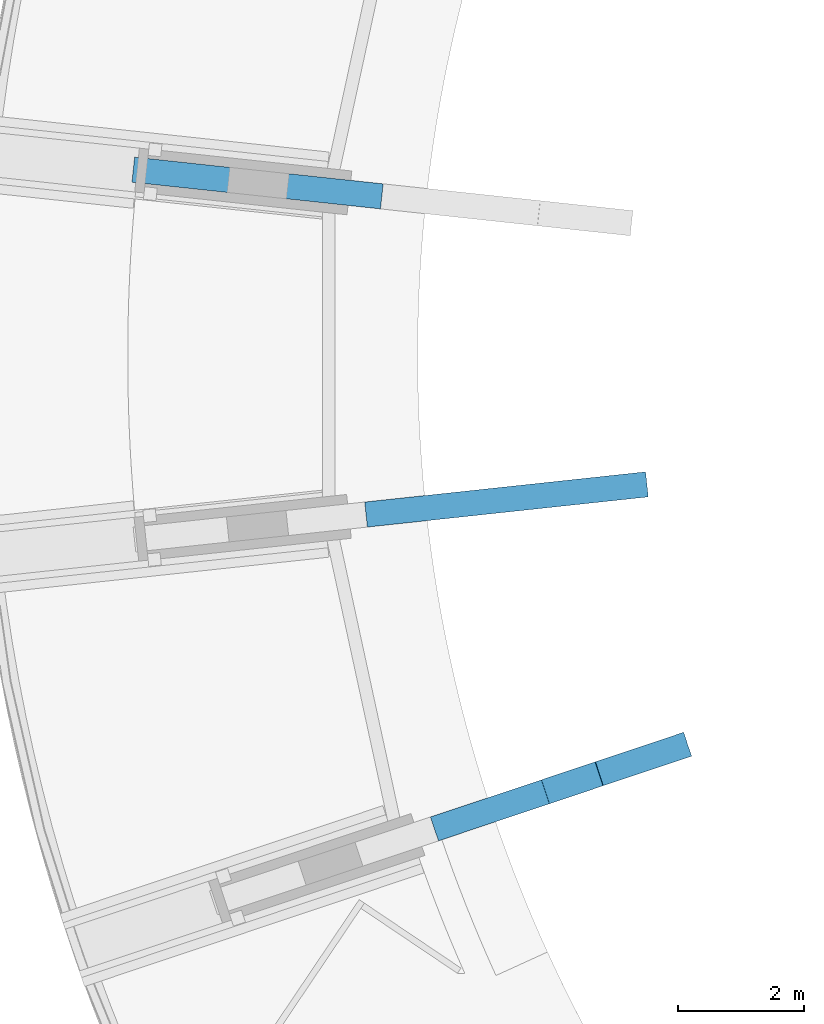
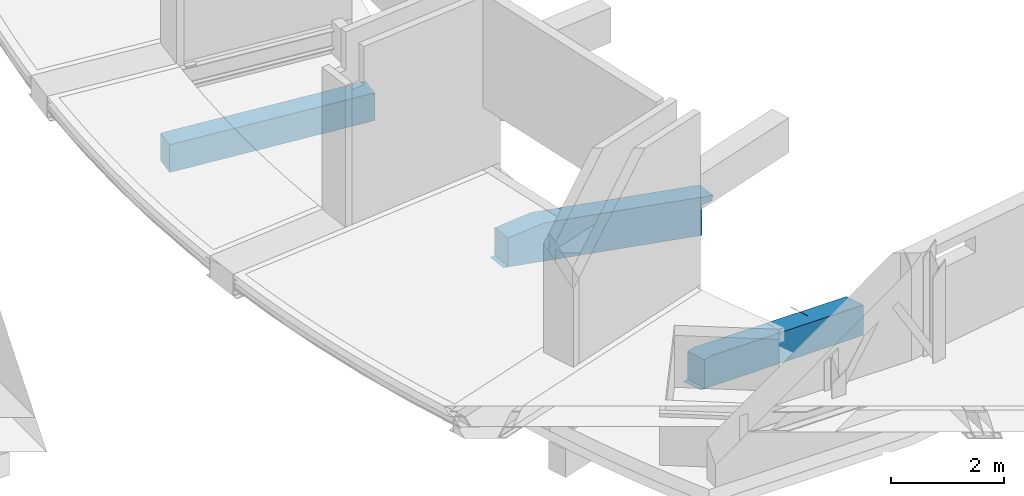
# One storey, part 30 of 37: 3 beams.
"""IFC2X3 building model written with IfcOpenShell, lengths in millimetres."""

from ifc_helpers import new_model, entity, si_unit, converted_unit, derived_unit, direction, frame, origin, place, context, subcontext, project, spatial, faceted_brep, source, transform, mapped, material, type_object, type_shapes, element, save


model = new_model("IFC2X3")

# Units and contexts
model_context = context("Model", 3, precision=0.01, world=origin(), true_north=direction((6.12303176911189e-17, 1.0)))
body_context = subcontext(model_context, "Body", "Model", "MODEL_VIEW")
ifc_project = project(units=[si_unit("LENGTHUNIT", "METRE", prefix="MILLI"), si_unit("AREAUNIT", "SQUARE_METRE", prefix="MILLI"), si_unit("VOLUMEUNIT", "CUBIC_METRE"), converted_unit("PLANEANGLEUNIT", "DEGREE", entity("IfcRatioMeasure", 0.0174532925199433), si_unit("PLANEANGLEUNIT", "RADIAN"), dimensions=[0, 0, 0, 0, 0, 0, 0]), si_unit("MASSUNIT", "GRAM", prefix="KILO"), derived_unit("MASSDENSITYUNIT", [(si_unit("MASSUNIT", "GRAM", prefix="KILO"), 1), (si_unit("LENGTHUNIT", "METRE"), -3)]), derived_unit("MOMENTOFINERTIAUNIT", [(si_unit("LENGTHUNIT", "METRE"), 4)]), si_unit("TIMEUNIT", "SECOND"), si_unit("FREQUENCYUNIT", "HERTZ"), si_unit("THERMODYNAMICTEMPERATUREUNIT", "DEGREE_CELSIUS"), derived_unit("THERMALTRANSMITTANCEUNIT", [(si_unit("MASSUNIT", "GRAM", prefix="KILO"), 1), (si_unit("THERMODYNAMICTEMPERATUREUNIT", "KELVIN"), -1), (si_unit("TIMEUNIT", "SECOND"), -3)]), derived_unit("VOLUMETRICFLOWRATEUNIT", [(si_unit("LENGTHUNIT", "METRE"), 3), (si_unit("TIMEUNIT", "SECOND"), -1)]), si_unit("ELECTRICCURRENTUNIT", "AMPERE"), si_unit("ELECTRICVOLTAGEUNIT", "VOLT"), si_unit("POWERUNIT", "WATT"), si_unit("FORCEUNIT", "NEWTON", prefix="KILO"), si_unit("ILLUMINANCEUNIT", "LUX"), si_unit("LUMINOUSFLUXUNIT", "LUMEN"), si_unit("LUMINOUSINTENSITYUNIT", "CANDELA"), derived_unit("USERDEFINED", [(si_unit("MASSUNIT", "GRAM", prefix="KILO"), -1), (si_unit("LENGTHUNIT", "METRE"), -2), (si_unit("TIMEUNIT", "SECOND"), 3), (si_unit("LUMINOUSFLUXUNIT", "LUMEN"), 1)]), derived_unit("LINEARVELOCITYUNIT", [(si_unit("LENGTHUNIT", "METRE"), 1), (si_unit("TIMEUNIT", "SECOND"), -1)]), si_unit("PRESSUREUNIT", "PASCAL"), derived_unit("USERDEFINED", [(si_unit("LENGTHUNIT", "METRE"), -2), (si_unit("MASSUNIT", "GRAM", prefix="KILO"), 1), (si_unit("TIMEUNIT", "SECOND"), -2)]), derived_unit("LINEARFORCEUNIT", [(si_unit("MASSUNIT", "GRAM", prefix="KILO"), 1), (si_unit("LENGTHUNIT", "METRE"), 1), (si_unit("TIMEUNIT", "SECOND"), -2), (si_unit("LENGTHUNIT", "METRE"), -1)]), derived_unit("PLANARFORCEUNIT", [(si_unit("MASSUNIT", "GRAM", prefix="KILO"), 1), (si_unit("LENGTHUNIT", "METRE"), 1), (si_unit("TIMEUNIT", "SECOND"), -2), (si_unit("LENGTHUNIT", "METRE"), -2)])], contexts=[model_context])

# Site, building, storey
site_placement = place(None, origin())
site = spatial("IfcSite", under=ifc_project, at=site_placement, Name="Theater aan de Parade", CompositionType="ELEMENT")
building_placement = place(site_placement, origin())
building = spatial("IfcBuilding", under=site, at=building_placement, Name="Theater aan de Parade", CompositionType="ELEMENT")
storey_placement = place(building_placement, frame((0.0, 0.0, 5020.0)))
storey = spatial("IfcBuildingStorey", under=building, at=storey_placement, Name="01 eerste verdieping", CompositionType="ELEMENT", Elevation=5020.0)

# Beams
ifc_material = material(Name="00_PBT_MAT_beton t.p.g.")
beam_type_1 = type_object("IfcBeamType", Name="28_PBT_SF_betonbalk:400x800_bestaand", PredefinedType="NOTDEFINED")
beam_1_placement = place(storey_placement, frame((44891.9671446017, 34768.7907303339, -2510.0), z_axis=(0.0, 0.0, 1.0), x_axis=(0.994276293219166, -0.106839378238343, 0.0)))
element("IfcBeam", 1, at=beam_1_placement, inside=storey, type_object=beam_type_1, material=ifc_material, Name="28_PBT_SF_betonbalk:400x800_bestaand", ObjectType="28_PBT_SF_betonbalk:400x800_bestaand", context=body_context, shape_type="Brep", body=[
    faceted_brep([(3923.62694346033, 623.215513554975, 580.190744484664), (3923.62694346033, 556.548837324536, 580.211438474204), (3923.62694346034, 489.882159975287, 580.280398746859), (3923.62694346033, 423.215496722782, 580.397623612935), (3923.62694346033, 423.215496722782, 0.0), (3923.62694346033, 823.215496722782, 0.0), (3923.62694346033, 823.215496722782, 580.418259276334), (3923.62694346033, 756.548801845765, 580.294156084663), (3923.62694346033, 689.882173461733, 580.218317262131), (-45.4763739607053, 823.215496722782, 0.0), (-45.4763739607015, 423.215496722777, 0.0), (-45.4763739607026, 423.215496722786, 600.0), (-45.4763739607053, 823.215496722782, 600.0), (3885.2793046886, 423.215496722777, 590.198811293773), (3846.93166618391, 423.215496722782, 600.0), (1554.52362603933, 423.215496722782, 600.0), (1554.52362603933, 423.215496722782, 0.0), (3553.69964843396, 423.215496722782, 0.0), (1554.52362603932, 823.215496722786, 0.0), (3553.69964843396, 823.215496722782, 0.0), (1554.52362603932, 823.215496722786, 600.0), (3847.01214228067, 823.215496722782, 600.0), (3885.31954272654, 823.215496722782, 590.209129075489), (3846.12489796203, 623.215667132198, 600.0)], [[[0, 1, 2, 3, 4, 5, 6, 7, 8]], [[9, 10, 11, 12]], [[13, 14, 15, 11, 10, 16, 17, 4, 3]], [[4, 17, 16, 10, 9, 18, 19, 5]], [[6, 5, 19, 18, 9, 12, 20, 21, 22]], [[15, 14, 23, 21, 20, 12, 11]], [[23, 14, 13]], [[0, 13, 1]], [[3, 2, 13]], [[1, 13, 2]], [[0, 23, 13]], [[7, 6, 22]], [[23, 0, 22]], [[0, 8, 22]], [[7, 22, 8]], [[21, 23, 22]]]),
])
beam_2_placement = place(storey_placement, frame((48489.2409887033, 29707.5559748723, -3604.20977498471), z_axis=(0.24282752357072, 0.0260928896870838, 0.969718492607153), x_axis=(0.964168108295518, 0.103604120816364, -0.244225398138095)))
element("IfcBeam", 2, at=beam_2_placement, inside=storey, type_object=beam_type_1, material=ifc_material, Name="28_PBT_SF_betonbalk:400x800_bestaand", ObjectType="28_PBT_SF_betonbalk:400x800_bestaand", context=body_context, shape_type="Brep", body=[
    faceted_brep([(4300.36965482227, -4.56586109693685, 1758.7261448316), (4300.36965482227, 395.434138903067, 1758.7261448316), (4300.36965482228, 395.434138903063, 1871.45287024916), (4300.36965482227, -4.56586109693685, 1871.45287024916), (493.694276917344, -4.56586109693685, 1871.45287024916), (493.694276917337, 395.434138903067, 1871.45287024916), (4088.1369321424, 395.434138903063, 1705.27494060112), (4247.76619430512, 395.434138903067, 1071.45287024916), (-226.029369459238, 395.434138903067, 1071.45287024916), (-129.841051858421, 395.434138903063, 1095.67807616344), (-276.376290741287, 395.434138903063, 1677.50917172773), (4246.6230954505, 195.434575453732, 1071.45287024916), (4247.59019547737, -4.56586109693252, 1071.45287024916), (-226.029369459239, -4.56586109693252, 1071.45287024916), (4087.97143094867, -4.56586109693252, 1705.23325881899), (-276.376290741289, -4.56586109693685, 1677.50917172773), (-129.841051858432, -4.56586109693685, 1095.67807616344), (4087.0620105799, 195.424820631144, 1705.00421961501)], [[[0, 1, 2, 3]], [[4, 3, 2, 5]], [[2, 1, 6, 7, 8, 9, 10, 5]], [[8, 7, 11, 12, 13]], [[12, 14, 0, 3, 4, 15, 16, 13]], [[15, 4, 5, 10]], [[17, 6, 1, 0, 14]], [[11, 7, 6]], [[17, 11, 6]], [[17, 14, 11]], [[12, 11, 14]], [[10, 9, 16, 15]], [[16, 9, 8, 13]]]),
])
beam_type_2 = type_object("IfcBeamType", Name="28_PBT_SF_betonbalk:400x800_bestaand", PredefinedType="BEAM", material=ifc_material)
shared_shape = source(origin(), body_context, "Body", "Brep", [
    faceted_brep([(2708.65432675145, 1285.63569519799, 1199.84412301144), (2714.81970162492, 1266.84277948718, 1199.87342108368), (2724.24063597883, 1238.12646801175, 1199.9181896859), (2732.03379059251, 1214.37185441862, 1199.95522302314), (2739.8269452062, 1190.6172408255, 1199.99225636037), (2747.62009981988, 1166.86262723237, 1200.0292896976), (2755.41325443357, 1143.10801363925, 1200.06632303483), (2763.20640904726, 1119.35340004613, 1200.10335637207), (2770.99956366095, 1095.59878645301, 1200.1403897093), (2779.01827767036, 1071.91936180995, 1200.1175424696), (2787.03699167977, 1048.23993716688, 1200.0946952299), (2795.05570568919, 1024.56051252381, 1200.0718479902), (2803.07441969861, 1000.88108788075, 1200.0490007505), (2811.09313370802, 977.20166323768, 1200.0261535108), (2819.11184771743, 953.522238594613, 1200.00330627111), (2827.13056172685, 929.842813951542, 1199.98045903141), (2835.1492757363, 906.163389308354, 1199.9576117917), (2840.00204382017, 907.787108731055, 1198.6688333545), (2818.62458867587, 970.935882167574, 1198.72808734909), (2797.40570335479, 1034.13466059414, 1198.74547290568), (2776.34138902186, 1097.38522013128, 1198.72180315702), (2755.42853986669, 1160.68675577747, 1198.65788421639), (2734.66407897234, 1224.0384317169, 1198.55451775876), (2714.04496052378, 1287.43938262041, 1198.41250038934), (2837.57204831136, 906.974040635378, 1196.44670963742), (2835.14927573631, 906.163389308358, 1194.2158482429), (2711.3465311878, 1286.53649749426, 1196.31861694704), (2708.65432675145, 1285.63569519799, 1194.2158482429), (2781.59107401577, 1063.99238318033, 1194.2158482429), (2792.18258591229, 1032.38597528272, 1194.2158482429), (2770.99956211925, 1095.59879107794, 1194.2158482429), (2813.56589541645, 969.240629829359, 1194.2158482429), (2824.35758557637, 937.702009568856, 1194.2158482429), (2802.87424066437, 1000.81330255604, 1194.2158482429), (2760.5082995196, 1127.23861651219, 1194.2158482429), (2718.94477396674, 1253.92999357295, 1194.2158482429), (2729.23522118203, 1222.22429194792, 1194.2158482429), (2739.62612905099, 1190.55136694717, 1194.2158482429), (2750.01703691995, 1158.87844194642, 1194.2158482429)], [[[0, 1, 2, 3, 4, 5, 6, 7, 8, 9, 10, 11, 12, 13, 14, 15, 16, 17, 18, 19, 20, 21, 22, 23]], [[24, 17, 16, 25]], [[0, 23, 26, 27]], [[10, 28, 29]], [[9, 8, 30]], [[14, 31, 32]], [[31, 14, 13]], [[33, 11, 29]], [[9, 30, 28]], [[12, 11, 33, 13]], [[7, 6, 34]], [[2, 35, 36]], [[4, 3, 37, 5]], [[27, 1, 0]], [[1, 27, 35]], [[37, 3, 36]], [[1, 35, 2]], [[30, 8, 7]], [[28, 10, 9]], [[32, 15, 14]], [[25, 15, 32]], [[16, 15, 25]], [[13, 33, 31]], [[11, 10, 29]], [[5, 37, 38]], [[6, 38, 34]], [[30, 7, 34]], [[38, 6, 5]], [[3, 2, 36]], [[26, 36, 35, 27]], [[26, 38, 37, 36]], [[24, 26, 20]], [[22, 26, 23]], [[26, 22, 21]], [[26, 21, 20]], [[24, 38, 26]], [[24, 29, 28, 30]], [[24, 31, 33, 29]], [[24, 25, 32, 31]], [[24, 19, 18]], [[18, 17, 24]], [[19, 24, 20]], [[24, 30, 34, 38]]]),
    faceted_brep([(4176.41560954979, 1565.84631407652, 1.91400129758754), (4240.61755423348, 1376.42821597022, 1.71736586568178), (126.922279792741, 0.0, 1094.2158482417), (0.0, 379.329322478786, 1094.2158482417), (4114.15500596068, 1755.91136302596, 1.5952722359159), (220.988366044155, 31.474187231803, 1694.2158482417), (385.55350429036, 86.5371135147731, 1694.2158482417), (321.479149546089, 275.997491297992, 1694.2158482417), (259.011806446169, 465.993777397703, 1694.2158482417), (94.066086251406, 410.803509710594, 1694.2158482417), (4114.15500596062, 1755.9113630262, 655.215848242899), (4176.4156095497, 1565.84631407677, 655.215848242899), (4240.61755423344, 1376.42821597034, 655.215848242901), (94.066086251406, 410.803509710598, 1094.2158482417), (220.988366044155, 31.474187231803, 1094.2158482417), (3812.27694468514, 1233.10692897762, 770.659633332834), (3383.93638140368, 1089.78565746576, 886.103608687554), (2955.59586109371, 946.464400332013, 1001.54776205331), (2527.25538104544, 803.143156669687, 1116.99208213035), (2098.91493877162, 659.821925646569, 1232.43655855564), (1670.57453198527, 516.500706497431, 1347.88118180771), (1242.23415857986, 373.179498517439, 1463.32594312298), (813.893816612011, 229.858301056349, 1578.77083442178), (3685.80550472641, 1612.58710090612, 770.659231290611), (687.360829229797, 609.317879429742, 1578.77048724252), (1115.70989972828, 752.641997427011, 1463.32532347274), (1544.05902083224, 895.966132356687, 1347.88036894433), (1972.40819566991, 1039.29028526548, 1232.43563666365), (2400.75742763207, 1182.61445728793, 1116.99114073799), (2829.1067204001, 1325.93864965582, 1001.5468964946), (3257.45607797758, 1469.26286370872, 886.102920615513), (2322.62547268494, 945.226647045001, 1154.88587073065)], [[[0, 1, 2, 3, 4]], [[5, 6, 7, 8, 9]], [[0, 4, 10, 11]], [[12, 1, 0, 11]], [[5, 9, 13, 14]], [[14, 13, 3, 2]], [[1, 12, 15, 16, 17, 18, 19, 20, 21, 22, 6, 5, 14, 2]], [[23, 10, 4, 3, 13, 9, 8, 24, 25, 26, 27, 28, 29, 30]], [[31, 7, 21]], [[7, 6, 22]], [[21, 7, 22]], [[21, 20, 31]], [[29, 28, 31]], [[16, 15, 11]], [[15, 12, 11]], [[19, 31, 20]], [[31, 18, 17]], [[31, 17, 16]], [[25, 7, 31]], [[24, 7, 25]], [[31, 19, 18]], [[27, 26, 31]], [[26, 25, 31]], [[31, 16, 11]], [[29, 31, 30]], [[11, 30, 31]], [[31, 28, 27]], [[11, 10, 23]], [[11, 23, 30]], [[8, 7, 24]]]),
    faceted_brep([(1855.11704701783, 1000.04507245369, 1426.52308694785), (1859.0164875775, 988.168718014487, 1426.54084365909), (1862.91592813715, 976.292363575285, 1426.55860037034), (1866.81536869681, 964.416009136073, 1426.57635708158), (1870.71480925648, 952.53965469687, 1426.59411379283), (1874.61424981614, 940.663300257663, 1426.61187050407), (1878.51369037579, 928.78694581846, 1426.62962721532), (1882.41313093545, 916.910591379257, 1426.64738392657), (1886.31257149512, 905.03423694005, 1426.66514063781), (1890.21201205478, 893.157882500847, 1426.68289734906), (1894.11145261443, 881.281528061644, 1426.70065406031), (1898.01089317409, 869.405173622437, 1426.71841077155), (1901.91033373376, 857.528819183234, 1426.7361674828), (1905.80977429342, 845.652464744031, 1426.75392419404), (1909.70921485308, 833.77611030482, 1426.77168090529), (1913.60865541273, 821.899755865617, 1426.78943761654), (1917.5080959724, 810.023401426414, 1426.80719432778), (1921.51568591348, 798.183103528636, 1426.79623954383), (1925.52327585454, 786.342805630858, 1426.78528475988), (1929.53086579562, 774.50250773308, 1426.77432997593), (1933.53845573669, 762.662209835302, 1426.76337519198), (1937.54604567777, 750.821911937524, 1426.75242040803), (1941.55363561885, 738.981614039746, 1426.74146562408), (1945.56122555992, 727.141316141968, 1426.73051084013), (1949.56881550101, 715.301018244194, 1426.71955605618), (1953.57640544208, 703.460720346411, 1426.70860127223), (1957.58399538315, 691.620422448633, 1426.69764648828), (1961.59158532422, 679.780124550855, 1426.68669170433), (1965.5991752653, 667.939826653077, 1426.67573692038), (1969.60676520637, 656.099528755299, 1426.66478213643), (1973.61435514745, 644.259230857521, 1426.65382735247), (1977.62194508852, 632.418932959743, 1426.64287256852), (1981.62953502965, 620.578635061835, 1426.63191778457), (1983.45017823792, 621.187815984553, 1426.14839875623), (1962.01140087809, 684.316063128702, 1426.22393910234), (1940.72944182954, 747.493635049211, 1426.25808369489), (1919.60052662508, 810.722566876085, 1426.25157138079), (1898.62183540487, 874.002107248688, 1426.20513569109), (1877.79056472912, 937.331478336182, 1426.11950835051), (1857.10393012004, 1000.70987667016, 1425.99541860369), (1982.53913888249, 620.882985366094, 1425.18287495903), (1981.62953502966, 620.578635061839, 1424.2158482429), (1856.10988530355, 1000.37727271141, 1425.10638217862), (1855.11704701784, 1000.04507245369, 1424.2158482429), (1949.37684542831, 715.236034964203, 1424.2158482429), (1944.033375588, 731.023147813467, 1424.2158482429), (1970.84666006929, 652.120222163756, 1424.2158482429), (1865.41926097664, 968.343230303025, 1424.2158482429), (1976.23809754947, 636.349428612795, 1424.2158482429), (1933.39445365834, 762.613544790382, 1424.2158482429), (1917.50809739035, 810.023397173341, 1424.2158482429), (1886.12001536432, 904.971011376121, 1424.2158482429), (1891.31928557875, 889.135822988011, 1424.2158482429), (1860.26815399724, 984.194151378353, 1424.2158482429), (1907.01332659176, 841.662015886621, 1424.2158482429), (1901.76594119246, 857.481325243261, 1424.2158482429), (1870.57036795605, 952.492309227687, 1424.2158482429), (1965.45522258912, 667.891015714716, 1424.2158482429), (1954.72031526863, 699.448922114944, 1424.2158482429), (1912.26071199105, 825.842706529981, 1424.2158482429), (1938.68990574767, 746.810260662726, 1424.2158482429), (1896.51855579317, 873.300634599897, 1424.2158482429), (1880.92074514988, 920.806199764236, 1424.2158482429), (1960.06378510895, 683.661809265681, 1424.2158482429), (1928.09900156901, 778.416828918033, 1424.2158482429), (1862.84370748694, 976.268690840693, 1424.2158482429), (1893.91892068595, 881.218228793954, 1424.2158482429), (1875.72147493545, 936.641388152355, 1424.2158482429), (1922.80354947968, 794.220113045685, 1424.2158482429), (1891.76762737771, 891.194803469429, 1425.18663366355), (1933.79880150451, 764.671661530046, 1425.2137337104)], [[[0, 1, 2, 3, 4, 5, 6, 7, 8, 9, 10, 11, 12, 13, 14, 15, 16, 17, 18, 19, 20, 21, 22, 23, 24, 25, 26, 27, 28, 29, 30, 31, 32, 33, 34, 35, 36, 37, 38, 39]], [[40, 33, 32, 41]], [[0, 39, 42, 43]], [[44, 23, 45]], [[46, 30, 29]], [[25, 24, 23, 44]], [[2, 47, 3]], [[30, 46, 48]], [[20, 19, 49, 21]], [[17, 16, 50]], [[9, 51, 52]], [[53, 1, 43]], [[54, 13, 55]], [[51, 9, 8, 7]], [[45, 23, 22]], [[4, 3, 56, 5]], [[46, 29, 57]], [[54, 14, 13]], [[58, 26, 25]], [[50, 15, 59]], [[22, 60, 45]], [[14, 54, 59]], [[55, 11, 61]], [[51, 7, 62]], [[43, 1, 0]], [[57, 27, 63]], [[48, 31, 30]], [[56, 3, 47]], [[49, 19, 64]], [[2, 1, 53]], [[2, 53, 65, 47]], [[41, 31, 48]], [[32, 31, 41]], [[10, 9, 52]], [[10, 52, 66, 61]], [[6, 67, 62]], [[44, 58, 25]], [[58, 63, 26]], [[50, 68, 17]], [[68, 64, 18]], [[60, 22, 21]], [[29, 28, 27, 57]], [[49, 60, 21]], [[67, 6, 5]], [[56, 67, 5]], [[11, 55, 13, 12]], [[27, 26, 63]], [[19, 18, 64]], [[10, 61, 11]], [[7, 6, 62]], [[68, 18, 17]], [[15, 50, 16]], [[15, 14, 59]], [[42, 67, 56, 47, 65, 53, 43]], [[69, 50, 59, 54, 55, 61]], [[42, 69, 67]], [[69, 61, 66, 52, 51, 62, 67]], [[38, 37, 69]], [[38, 42, 39]], [[36, 35, 70]], [[69, 42, 38]], [[36, 69, 37]], [[70, 63, 58, 44, 45, 60]], [[70, 50, 69]], [[70, 60, 49, 64, 68, 50]], [[40, 63, 70]], [[40, 41, 48, 46, 57, 63]], [[35, 34, 70]], [[34, 33, 40]], [[70, 34, 40]], [[70, 69, 36]]]),
])
type_shapes(beam_type_2, [shared_shape])
beam_3_placement = place(storey_placement, frame((49538.2566139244, 24703.9334907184, -3604.2158482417)))
element("IfcBeam", 3, at=beam_3_placement, inside=storey, type_object=beam_type_2, material=ifc_material, Name="28_PBT_SF_betonbalk:400x800_bestaand", ObjectType="28_PBT_SF_betonbalk:400x800_bestaand", context=body_context, shape_type="MappedRepresentation", body=[
    mapped(shared_shape, transform((0.0, 0.0, 0.0), scale=1.0)),
])

save(model, "model.ifc")
